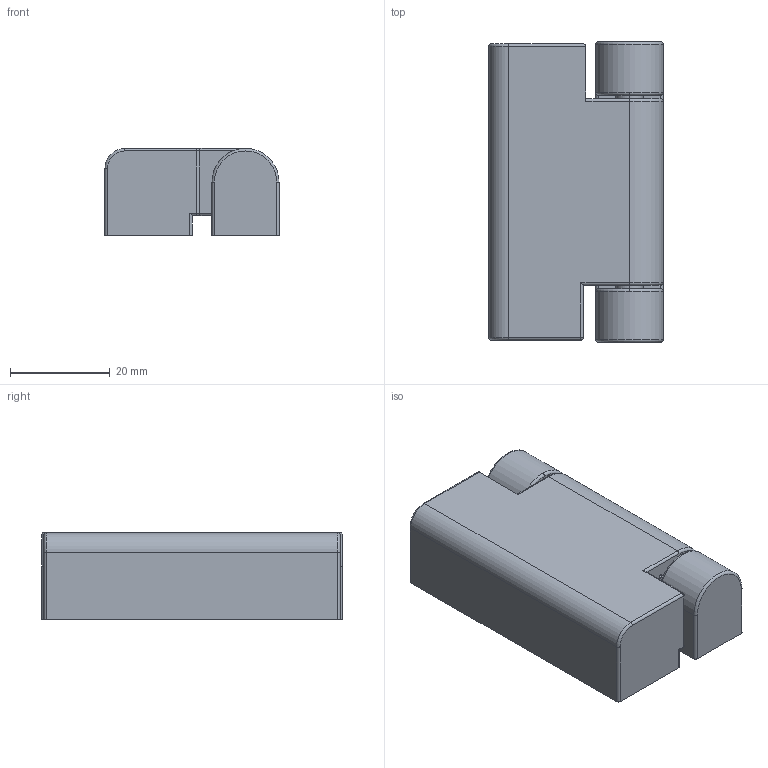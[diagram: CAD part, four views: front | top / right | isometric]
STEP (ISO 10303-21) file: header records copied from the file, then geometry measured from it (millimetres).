
FILE_DESCRIPTION (( 'STEP AP203' ), '1' );
FILE_NAME ('XG11-035-1.STEP', '2025-04-22T01:08:33', ( '微软用户' ), ( '微软中国' ), 'SwSTEP 2.0', 'SolidWorks 2024', '' );
FILE_SCHEMA (( 'CONFIG_CONTROL_DESIGN' ));
Length unit declared in the file: millimetre
Products named in the file (3): XG11-035-1PART1; XG11-035-1; XG11-035-1PART2
Assembly tree (2 placements, depth 2):
  XG11-035-1
    XG11-035-1PART1
    XG11-035-1PART2
Bounding box: 35.01 x 60.4 x 17.5 mm (x, y, z)
Volume: 25076.1 mm3; surface area: 12256.3 mm2
Topology: 5 solids, 5 shells, 302 faces, 724 edges, 440 vertices
Faces by surface type: cylinder 125, plane 68, torus 40, bspline 36, cone 30, sphere 3
Entity records: 10412 total; most frequent: CARTESIAN_POINT 3229, DIRECTION 1512, ORIENTED_EDGE 1434, EDGE_CURVE 717, AXIS2_PLACEMENT_3D 626, VERTEX_POINT 440, CIRCLE 355, EDGE_LOOP 321
